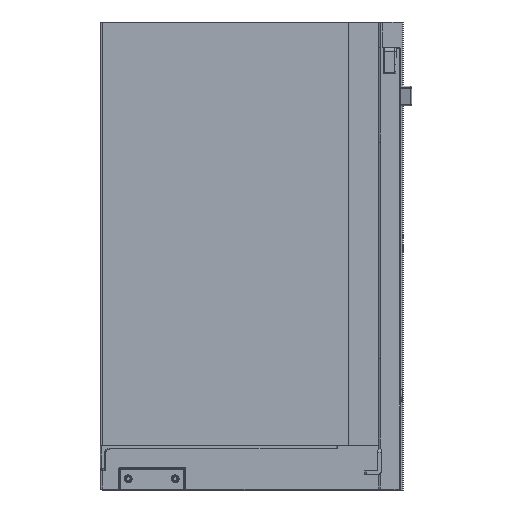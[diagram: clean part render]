
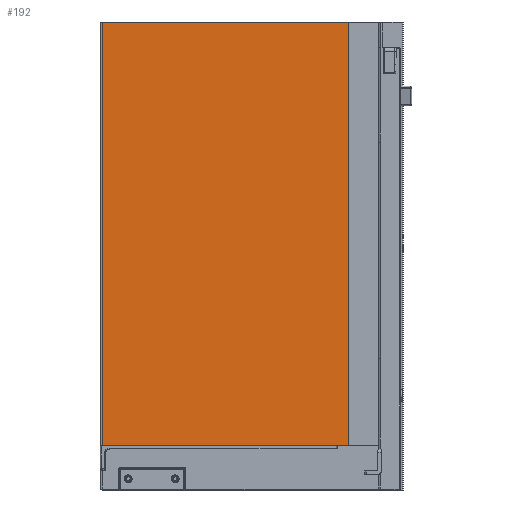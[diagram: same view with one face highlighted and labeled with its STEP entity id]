
A CAD part, left-side view. The second image highlights one B-rep face of the part: STEP entity #192.
In plain terms, the highlighted planar face has unit normal (-1, 0, 0).
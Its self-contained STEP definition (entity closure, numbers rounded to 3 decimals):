
#78 = CARTESIAN_POINT ( 'NONE',  ( 5.7, 0., -562.455 ) ) ;
#189 = VECTOR ( 'NONE', #338, 1000. ) ;
#192 = ADVANCED_FACE ( 'NONE', ( #3001 ), #6083, .T. ) ;
#338 = DIRECTION ( 'NONE',  ( 0., 0., 1. ) ) ;
#373 = LINE ( 'NONE', #78, #189 ) ;
#581 = LINE ( 'NONE', #6015, #767 ) ;
#767 = VECTOR ( 'NONE', #5256, 1000. ) ;
#769 = CARTESIAN_POINT ( 'NONE',  ( 5.7, 141.8, 0. ) ) ;
#847 = VECTOR ( 'NONE', #6552, 1000. ) ;
#857 = ORIENTED_EDGE ( 'NONE', *, *, #1361, .F. ) ;
#867 = LINE ( 'NONE', #6533, #847 ) ;
#888 = ORIENTED_EDGE ( 'NONE', *, *, #1394, .F. ) ;
#982 = ORIENTED_EDGE ( 'NONE', *, *, #1392, .T. ) ;
#988 = LINE ( 'NONE', #5152, #1056 ) ;
#1056 = VECTOR ( 'NONE', #5201, 1000. ) ;
#1361 = EDGE_CURVE ( 'NONE', #4367, #9071, #988, .T. ) ;
#1392 = EDGE_CURVE ( 'NONE', #11076, #7012, #581, .T. ) ;
#1394 = EDGE_CURVE ( 'NONE', #9071, #7012, #867, .T. ) ;
#1417 = CARTESIAN_POINT ( 'NONE',  ( 5.7, 141.8, -243.5 ) ) ;
#2762 = EDGE_CURVE ( 'NONE', #4367, #11076, #373, .T. ) ;
#3001 = FACE_OUTER_BOUND ( 'NONE', #8296, .T. ) ;
#4367 = VERTEX_POINT ( 'NONE', #6537 ) ;
#4996 = ORIENTED_EDGE ( 'NONE', *, *, #2762, .T. ) ;
#5152 = CARTESIAN_POINT ( 'NONE',  ( 5.7, 0., -243.5 ) ) ;
#5201 = DIRECTION ( 'NONE',  ( 0., 1., 0. ) ) ;
#5256 = DIRECTION ( 'NONE',  ( 0., 1., 0. ) ) ;
#5993 = DIRECTION ( 'NONE',  ( 0., 0., 1. ) ) ;
#6015 = CARTESIAN_POINT ( 'NONE',  ( 5.7, 0., 0. ) ) ;
#6048 = DIRECTION ( 'NONE',  ( -1., 0., 0. ) ) ;
#6083 = PLANE ( 'NONE',  #6899 ) ;
#6533 = CARTESIAN_POINT ( 'NONE',  ( 5.7, 141.8, -562.455 ) ) ;
#6537 = CARTESIAN_POINT ( 'NONE',  ( 5.7, 0., -243.5 ) ) ;
#6552 = DIRECTION ( 'NONE',  ( 0., 0., 1. ) ) ;
#6899 = AXIS2_PLACEMENT_3D ( 'NONE', #6986, #6048, #5993 ) ;
#6986 = CARTESIAN_POINT ( 'NONE',  ( 5.7, 0., -562.455 ) ) ;
#7012 = VERTEX_POINT ( 'NONE', #769 ) ;
#8296 = EDGE_LOOP ( 'NONE', ( #982, #888, #857, #4996 ) ) ;
#9071 = VERTEX_POINT ( 'NONE', #1417 ) ;
#10726 = CARTESIAN_POINT ( 'NONE',  ( 5.7, 0., 0. ) ) ;
#11076 = VERTEX_POINT ( 'NONE', #10726 ) ;
